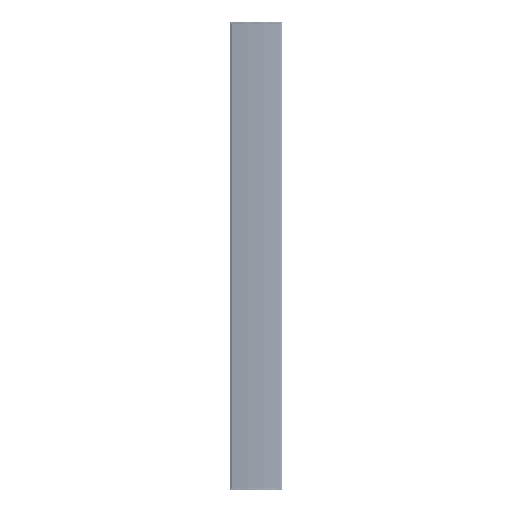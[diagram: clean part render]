
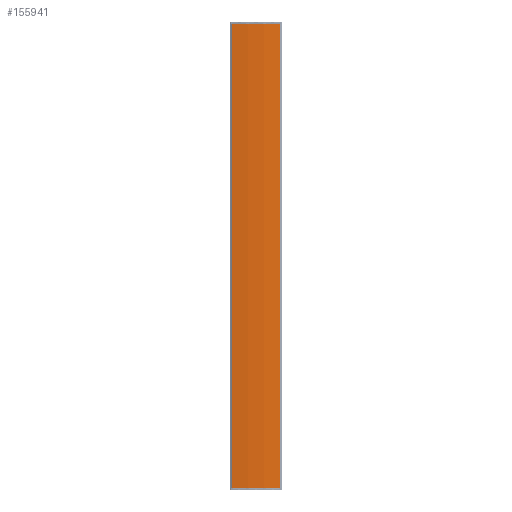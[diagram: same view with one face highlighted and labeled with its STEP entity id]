
A CAD part, top view. The second image highlights one B-rep face of the part: STEP entity #155941.
In plain terms, the highlighted cylindrical face has radius 449 mm (diameter 898 mm), a partial arc.
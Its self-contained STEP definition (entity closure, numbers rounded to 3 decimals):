
#34301 = DIRECTION ( 'NONE',  ( 0., 0., -1. ) ) ;
#34307 = DIRECTION ( 'NONE',  ( 0., -1., 0. ) ) ;
#34383 = CARTESIAN_POINT ( 'NONE',  ( 0., 0., -444.455 ) ) ;
#45718 = AXIS2_PLACEMENT_3D ( 'NONE', #73893, #73972, #73933 ) ;
#45798 = AXIS2_PLACEMENT_3D ( 'NONE', #75107, #75113, #75119 ) ;
#58366 = CARTESIAN_POINT ( 'NONE',  ( 55.937, 0., 1.047 ) ) ;
#58382 = CARTESIAN_POINT ( 'NONE',  ( -55.937, 0., 1.047 ) ) ;
#58384 = CARTESIAN_POINT ( 'NONE',  ( -55.937, 1074., 1.047 ) ) ;
#58410 = CARTESIAN_POINT ( 'NONE',  ( 55.937, 1074., 1.047 ) ) ;
#73893 = CARTESIAN_POINT ( 'NONE',  ( 0., 0., -444.455 ) ) ;
#73933 = DIRECTION ( 'NONE',  ( 0., 0., -1. ) ) ;
#73972 = DIRECTION ( 'NONE',  ( 0., -1., 0. ) ) ;
#74704 = CARTESIAN_POINT ( 'NONE',  ( -55.937, 0., 1.047 ) ) ;
#74707 = DIRECTION ( 'NONE',  ( 0., 1., 0. ) ) ;
#75107 = CARTESIAN_POINT ( 'NONE',  ( 0., 1074., -444.455 ) ) ;
#75113 = DIRECTION ( 'NONE',  ( 0., -1., 0. ) ) ;
#75119 = DIRECTION ( 'NONE',  ( 0., 0., -1. ) ) ;
#75445 = CARTESIAN_POINT ( 'NONE',  ( 55.937, 0., 1.047 ) ) ;
#75594 = DIRECTION ( 'NONE',  ( 0., 1., 0. ) ) ;
#81821 = CIRCLE ( 'NONE', #45718, 449. ) ;
#82128 = LINE ( 'NONE', #74704, #82132 ) ;
#82132 = VECTOR ( 'NONE', #74707, 1000. ) ;
#82367 = CIRCLE ( 'NONE', #45798, 449. ) ;
#82433 = VECTOR ( 'NONE', #75594, 1000. ) ;
#82481 = LINE ( 'NONE', #75445, #82433 ) ;
#151412 = EDGE_LOOP ( 'NONE', ( #189000, #188987, #188969, #188859 ) ) ;
#155941 = ADVANCED_FACE ( 'NONE', ( #214963 ), #214972, .T. ) ;
#160233 = VERTEX_POINT ( 'NONE', #58384 ) ;
#160236 = VERTEX_POINT ( 'NONE', #58382 ) ;
#160239 = VERTEX_POINT ( 'NONE', #58366 ) ;
#160247 = VERTEX_POINT ( 'NONE', #58410 ) ;
#170337 = EDGE_CURVE ( 'NONE', #160239, #160236, #81821, .T. ) ;
#170509 = EDGE_CURVE ( 'NONE', #160236, #160233, #82128, .T. ) ;
#170618 = EDGE_CURVE ( 'NONE', #160247, #160233, #82367, .T. ) ;
#170696 = EDGE_CURVE ( 'NONE', #160239, #160247, #82481, .T. ) ;
#188859 = ORIENTED_EDGE ( 'NONE', *, *, #170618, .T. ) ;
#188969 = ORIENTED_EDGE ( 'NONE', *, *, #170696, .T. ) ;
#188987 = ORIENTED_EDGE ( 'NONE', *, *, #170337, .F. ) ;
#189000 = ORIENTED_EDGE ( 'NONE', *, *, #170509, .F. ) ;
#191451 = AXIS2_PLACEMENT_3D ( 'NONE', #34383, #34307, #34301 ) ;
#214963 = FACE_OUTER_BOUND ( 'NONE', #151412, .T. ) ;
#214972 = CYLINDRICAL_SURFACE ( 'NONE', #191451, 449. ) ;
